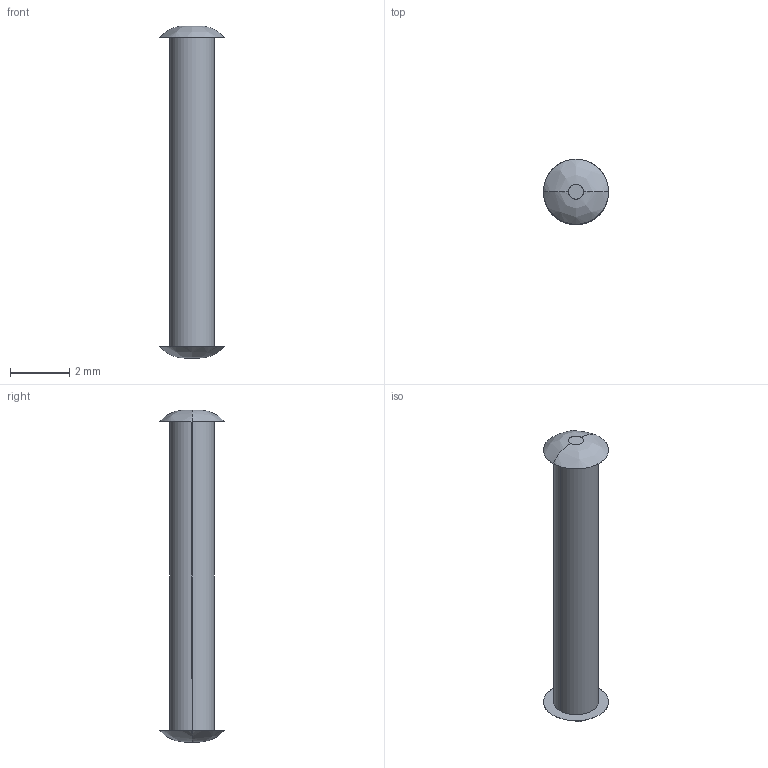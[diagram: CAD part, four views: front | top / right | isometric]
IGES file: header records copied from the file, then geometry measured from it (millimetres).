
Start section: SolidWorks IGES FILE using analytic representation for surfaces
Global section: file name: C:\Documents and Settings\lecoutey\Bureau\GP 69\69.040.00.IGS; native system: SolidWorks 2004 by SolidWorks Corporation; preprocessor: Version 5.3; author: lecoutey; date: 050329.145857; units: millimetre
Bounding box: 2.2 x 2.2 x 11.2 mm (x, y, z)
Surface area: 62.1 mm2 (no closed solid volume)
Topology: 0 solids, 0 shells, 10 faces, 152 edges, 152 vertices
Faces by surface type: bspline 8, revolution 2
